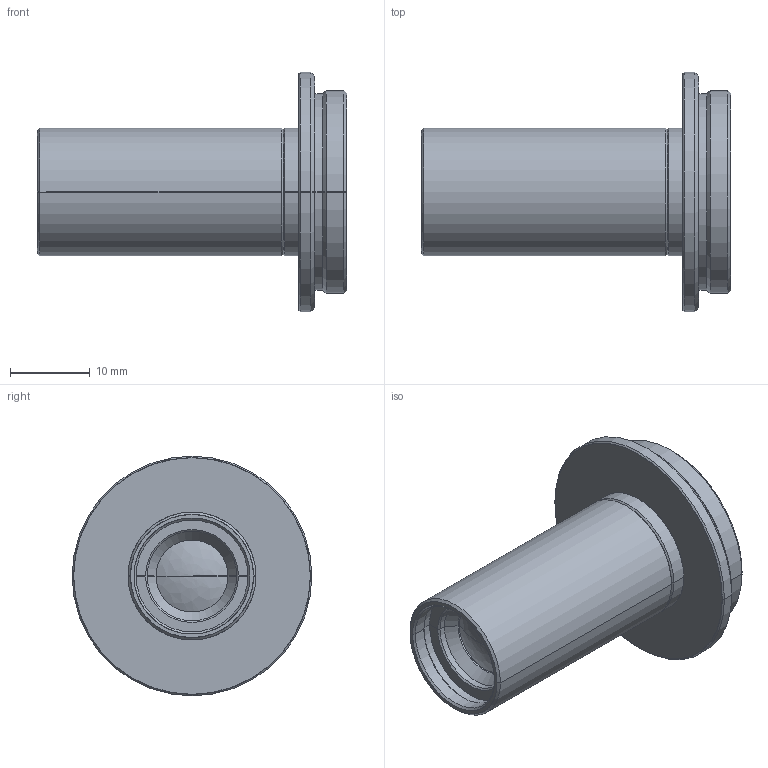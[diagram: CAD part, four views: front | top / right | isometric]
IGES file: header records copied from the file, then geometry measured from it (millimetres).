
Start section: SolidWorks IGES file using analytic representation for surfaces
Bounding box: 38.74 x 30 x 30 mm (x, y, z)
Surface area: 4703 mm2 (no closed solid volume)
Topology: 0 solids, 0 shells, 67 faces, 632 edges, 630 vertices
Faces by surface type: revolution 62, bspline 5
